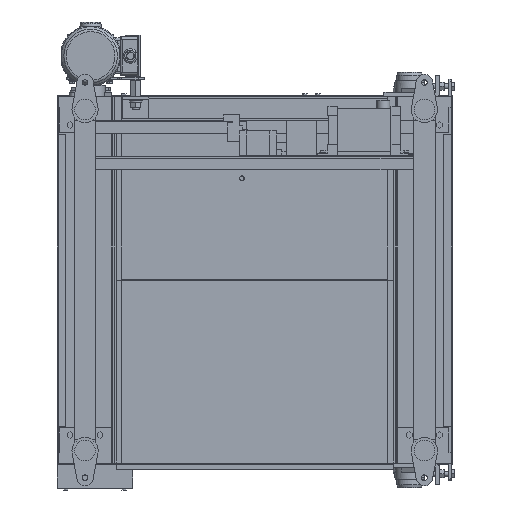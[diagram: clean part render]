
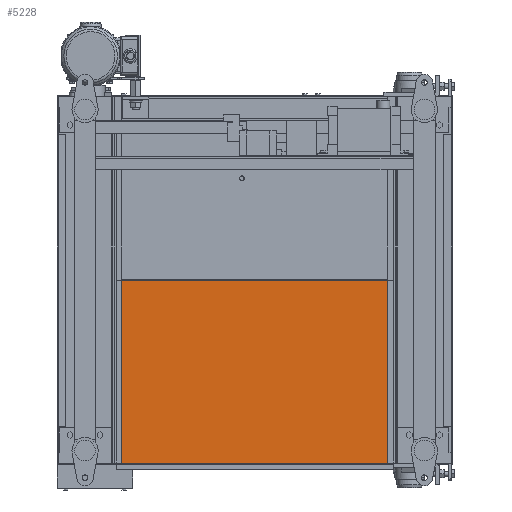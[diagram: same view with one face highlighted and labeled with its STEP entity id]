
A CAD part, front view. The second image highlights one B-rep face of the part: STEP entity #5228.
In plain terms, the highlighted planar face has unit normal (0, -1, 0).
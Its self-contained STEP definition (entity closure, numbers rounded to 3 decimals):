
#5228=ADVANCED_FACE('',(#25548),#25547,.F.);
#25547=PLANE('',#43573);
#25548=FACE_OUTER_BOUND('',#43574,.T.);
#43570=CARTESIAN_POINT('',(792.5,-165.,10.));
#43571=DIRECTION('',(0.,1.,0.));
#43572=DIRECTION('',(0.,0.,-1.));
#43573=AXIS2_PLACEMENT_3D('',#43570,#43571,#43572);
#43574=EDGE_LOOP('',(#57640,#57641,#57642,#57643));
#57640=ORIENTED_EDGE('',*,*,#66439,.F.);
#57641=ORIENTED_EDGE('',*,*,#66445,.F.);
#57642=ORIENTED_EDGE('',*,*,#66446,.F.);
#57643=ORIENTED_EDGE('',*,*,#66447,.F.);
#66439=EDGE_CURVE('',#101145,#101146,#101147,.T.);
#66445=EDGE_CURVE('',#101184,#101145,#101185,.T.);
#66446=EDGE_CURVE('',#101191,#101184,#101192,.T.);
#66447=EDGE_CURVE('',#101146,#101191,#101198,.T.);
#101145=VERTEX_POINT('',#133931);
#101146=VERTEX_POINT('',#133932);
#101147=LINE('',#133933,#133934);
#101184=VERTEX_POINT('',#133952);
#101185=LINE('',#133953,#133954);
#101191=VERTEX_POINT('',#133956);
#101192=LINE('',#133957,#133958);
#101198=LINE('',#133960,#133961);
#133931=CARTESIAN_POINT('',(782.5,-165.,0.));
#133932=CARTESIAN_POINT('',(782.5,-165.,-428.2));
#133933=CARTESIAN_POINT('',(782.5,-165.,0.));
#133934=VECTOR('',#133935,428.2);
#133935=DIRECTION('',(0.,0.,-1.));
#133952=CARTESIAN_POINT('',(137.5,-165.,0.));
#133953=CARTESIAN_POINT('',(137.5,-165.,0.));
#133954=VECTOR('',#133955,645.);
#133955=DIRECTION('',(1.,0.,0.));
#133956=CARTESIAN_POINT('',(137.5,-165.,-428.2));
#133957=CARTESIAN_POINT('',(137.5,-165.,-428.2));
#133958=VECTOR('',#133959,428.2);
#133959=DIRECTION('',(0.,0.,1.));
#133960=CARTESIAN_POINT('',(782.5,-165.,-428.2));
#133961=VECTOR('',#133962,645.);
#133962=DIRECTION('',(-1.,0.,0.));
